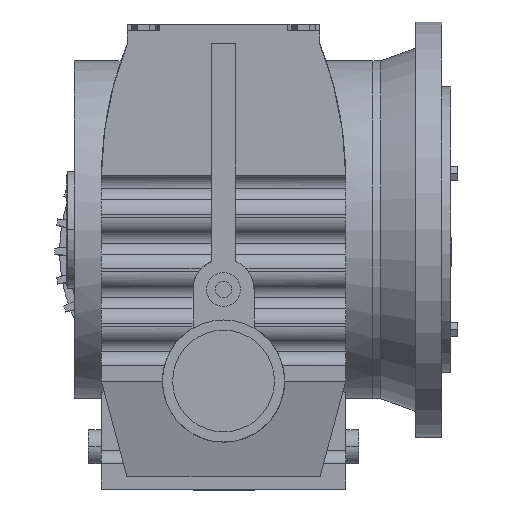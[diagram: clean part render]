
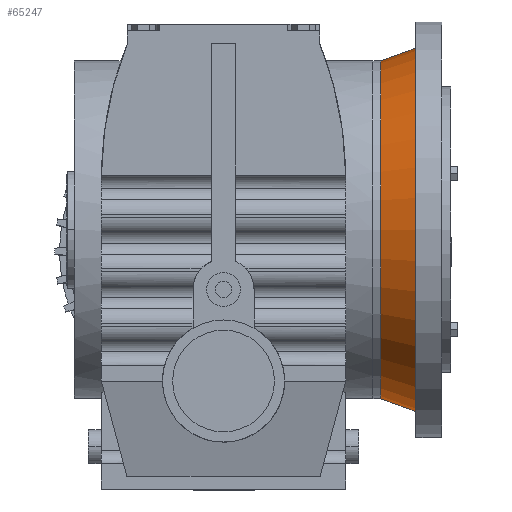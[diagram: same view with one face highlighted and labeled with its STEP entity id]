
A CAD part, top view. The second image highlights one B-rep face of the part: STEP entity #65247.
In plain terms, the highlighted conical face has half-angle 20 degrees and reference radius 69.914 mm.
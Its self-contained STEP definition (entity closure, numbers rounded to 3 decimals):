
#64800 = PLANE('',#64801);
#64801 = AXIS2_PLACEMENT_3D('',#64802,#64803,#64804);
#64802 = CARTESIAN_POINT('',(74.,69.914,0.));
#64803 = DIRECTION('',(1.,0.,0.));
#64804 = DIRECTION('',(0.,1.,0.));
#65010 = VERTEX_POINT('',#65011);
#65011 = CARTESIAN_POINT('',(74.,69.914,0.));
#65012 = VERTEX_POINT('',#65013);
#65013 = CARTESIAN_POINT('',(74.,-69.914,0.));
#65032 = CONICAL_SURFACE('',#65033,69.914,0.349);
#65033 = AXIS2_PLACEMENT_3D('',#65034,#65035,#65036);
#65034 = CARTESIAN_POINT('',(74.,0.,0.));
#65035 = DIRECTION('',(1.,0.,0.));
#65036 = DIRECTION('',(0.,1.,0.));
#65066 = EDGE_CURVE('',#65012,#65010,#65067,.T.);
#65067 = SURFACE_CURVE('',#65068,(#65073,#65084),.PCURVE_S1.);
#65068 = CIRCLE('',#65069,69.914);
#65069 = AXIS2_PLACEMENT_3D('',#65070,#65071,#65072);
#65070 = CARTESIAN_POINT('',(74.,0.,0.));
#65071 = DIRECTION('',(-1.,0.,0.));
#65072 = DIRECTION('',(0.,-1.,0.));
#65073 = PCURVE('',#64800,#65074);
#65074 = DEFINITIONAL_REPRESENTATION('',(#65075),#65083);
#65075 = ( BOUNDED_CURVE() B_SPLINE_CURVE(2,(#65076,#65077,#65078,#65079
    ,#65080,#65081,#65082),.UNSPECIFIED.,.F.,.F.) 
B_SPLINE_CURVE_WITH_KNOTS((1,2,2,2,2,1),(-2.094,0.,
    2.094,4.189,6.283,8.378),
.UNSPECIFIED.) CURVE() GEOMETRIC_REPRESENTATION_ITEM() 
RATIONAL_B_SPLINE_CURVE((1.,0.5,1.,0.5,1.,0.5,1.)) REPRESENTATION_ITEM(
  '') );
#65076 = CARTESIAN_POINT('',(-139.827,0.));
#65077 = CARTESIAN_POINT('',(-139.827,121.094));
#65078 = CARTESIAN_POINT('',(-34.957,60.547));
#65079 = CARTESIAN_POINT('',(69.914,0.));
#65080 = CARTESIAN_POINT('',(-34.957,-60.547));
#65081 = CARTESIAN_POINT('',(-139.827,-121.094));
#65082 = CARTESIAN_POINT('',(-139.827,0.));
#65083 = ( GEOMETRIC_REPRESENTATION_CONTEXT(2) 
PARAMETRIC_REPRESENTATION_CONTEXT() REPRESENTATION_CONTEXT('2D SPACE',''
  ) );
#65084 = PCURVE('',#65085,#65090);
#65085 = CONICAL_SURFACE('',#65086,69.914,0.349);
#65086 = AXIS2_PLACEMENT_3D('',#65087,#65088,#65089);
#65087 = CARTESIAN_POINT('',(74.,0.,0.));
#65088 = DIRECTION('',(1.,0.,0.));
#65089 = DIRECTION('',(0.,1.,0.));
#65090 = DEFINITIONAL_REPRESENTATION('',(#65091),#65094);
#65091 = B_SPLINE_CURVE_WITH_KNOTS('',1,(#65092,#65093),.UNSPECIFIED.,
  .F.,.F.,(2,2),(0.,3.142),.PIECEWISE_BEZIER_KNOTS.);
#65092 = CARTESIAN_POINT('',(3.142,0.));
#65093 = CARTESIAN_POINT('',(0.,0.));
#65094 = ( GEOMETRIC_REPRESENTATION_CONTEXT(2) 
PARAMETRIC_REPRESENTATION_CONTEXT() REPRESENTATION_CONTEXT('2D SPACE',''
  ) );
#65247 = ADVANCED_FACE('',(#65248),#65085,.T.);
#65248 = FACE_BOUND('',#65249,.T.);
#65249 = EDGE_LOOP('',(#65250,#65279,#65298,#65299));
#65250 = ORIENTED_EDGE('',*,*,#65251,.F.);
#65251 = EDGE_CURVE('',#65252,#65254,#65256,.T.);
#65252 = VERTEX_POINT('',#65253);
#65253 = CARTESIAN_POINT('',(60.5,-65.,0.));
#65254 = VERTEX_POINT('',#65255);
#65255 = CARTESIAN_POINT('',(60.5,65.,0.));
#65256 = SURFACE_CURVE('',#65257,(#65262,#65268),.PCURVE_S1.);
#65257 = CIRCLE('',#65258,65.);
#65258 = AXIS2_PLACEMENT_3D('',#65259,#65260,#65261);
#65259 = CARTESIAN_POINT('',(60.5,0.,0.));
#65260 = DIRECTION('',(-1.,0.,0.));
#65261 = DIRECTION('',(0.,-1.,0.));
#65262 = PCURVE('',#65085,#65263);
#65263 = DEFINITIONAL_REPRESENTATION('',(#65264),#65267);
#65264 = B_SPLINE_CURVE_WITH_KNOTS('',1,(#65265,#65266),.UNSPECIFIED.,
  .F.,.F.,(2,2),(0.,3.142),.PIECEWISE_BEZIER_KNOTS.);
#65265 = CARTESIAN_POINT('',(3.142,-13.5));
#65266 = CARTESIAN_POINT('',(0.,-13.5));
#65267 = ( GEOMETRIC_REPRESENTATION_CONTEXT(2) 
PARAMETRIC_REPRESENTATION_CONTEXT() REPRESENTATION_CONTEXT('2D SPACE',''
  ) );
#65268 = PCURVE('',#65269,#65274);
#65269 = CYLINDRICAL_SURFACE('',#65270,65.);
#65270 = AXIS2_PLACEMENT_3D('',#65271,#65272,#65273);
#65271 = CARTESIAN_POINT('',(0.,0.,0.));
#65272 = DIRECTION('',(-1.,0.,0.));
#65273 = DIRECTION('',(0.,-1.,0.));
#65274 = DEFINITIONAL_REPRESENTATION('',(#65275),#65278);
#65275 = B_SPLINE_CURVE_WITH_KNOTS('',1,(#65276,#65277),.UNSPECIFIED.,
  .F.,.F.,(2,2),(0.,3.142),.PIECEWISE_BEZIER_KNOTS.);
#65276 = CARTESIAN_POINT('',(0.,-60.5));
#65277 = CARTESIAN_POINT('',(3.142,-60.5));
#65278 = ( GEOMETRIC_REPRESENTATION_CONTEXT(2) 
PARAMETRIC_REPRESENTATION_CONTEXT() REPRESENTATION_CONTEXT('2D SPACE',''
  ) );
#65279 = ORIENTED_EDGE('',*,*,#65280,.T.);
#65280 = EDGE_CURVE('',#65252,#65012,#65281,.T.);
#65281 = SURFACE_CURVE('',#65282,(#65286,#65292),.PCURVE_S1.);
#65282 = LINE('',#65283,#65284);
#65283 = CARTESIAN_POINT('',(74.,-69.914,0.));
#65284 = VECTOR('',#65285,1.);
#65285 = DIRECTION('',(0.94,-0.342,
    0.));
#65286 = PCURVE('',#65085,#65287);
#65287 = DEFINITIONAL_REPRESENTATION('',(#65288),#65291);
#65288 = B_SPLINE_CURVE_WITH_KNOTS('',1,(#65289,#65290),.UNSPECIFIED.,
  .F.,.F.,(2,2),(-14.366,0.),.PIECEWISE_BEZIER_KNOTS.);
#65289 = CARTESIAN_POINT('',(3.142,-13.5));
#65290 = CARTESIAN_POINT('',(3.142,0.));
#65291 = ( GEOMETRIC_REPRESENTATION_CONTEXT(2) 
PARAMETRIC_REPRESENTATION_CONTEXT() REPRESENTATION_CONTEXT('2D SPACE',''
  ) );
#65292 = PCURVE('',#65032,#65293);
#65293 = DEFINITIONAL_REPRESENTATION('',(#65294),#65297);
#65294 = B_SPLINE_CURVE_WITH_KNOTS('',1,(#65295,#65296),.UNSPECIFIED.,
  .F.,.F.,(2,2),(-14.366,0.),.PIECEWISE_BEZIER_KNOTS.);
#65295 = CARTESIAN_POINT('',(3.142,-13.5));
#65296 = CARTESIAN_POINT('',(3.142,0.));
#65297 = ( GEOMETRIC_REPRESENTATION_CONTEXT(2) 
PARAMETRIC_REPRESENTATION_CONTEXT() REPRESENTATION_CONTEXT('2D SPACE',''
  ) );
#65298 = ORIENTED_EDGE('',*,*,#65066,.T.);
#65299 = ORIENTED_EDGE('',*,*,#65300,.F.);
#65300 = EDGE_CURVE('',#65254,#65010,#65301,.T.);
#65301 = SURFACE_CURVE('',#65302,(#65306,#65312),.PCURVE_S1.);
#65302 = LINE('',#65303,#65304);
#65303 = CARTESIAN_POINT('',(74.,69.914,0.));
#65304 = VECTOR('',#65305,1.);
#65305 = DIRECTION('',(0.94,0.342,0.));
#65306 = PCURVE('',#65085,#65307);
#65307 = DEFINITIONAL_REPRESENTATION('',(#65308),#65311);
#65308 = B_SPLINE_CURVE_WITH_KNOTS('',1,(#65309,#65310),.UNSPECIFIED.,
  .F.,.F.,(2,2),(-14.366,0.),.PIECEWISE_BEZIER_KNOTS.);
#65309 = CARTESIAN_POINT('',(0.,-13.5));
#65310 = CARTESIAN_POINT('',(0.,0.));
#65311 = ( GEOMETRIC_REPRESENTATION_CONTEXT(2) 
PARAMETRIC_REPRESENTATION_CONTEXT() REPRESENTATION_CONTEXT('2D SPACE',''
  ) );
#65312 = PCURVE('',#65032,#65313);
#65313 = DEFINITIONAL_REPRESENTATION('',(#65314),#65317);
#65314 = B_SPLINE_CURVE_WITH_KNOTS('',1,(#65315,#65316),.UNSPECIFIED.,
  .F.,.F.,(2,2),(-14.366,0.),.PIECEWISE_BEZIER_KNOTS.);
#65315 = CARTESIAN_POINT('',(6.283,-13.5));
#65316 = CARTESIAN_POINT('',(6.283,0.));
#65317 = ( GEOMETRIC_REPRESENTATION_CONTEXT(2) 
PARAMETRIC_REPRESENTATION_CONTEXT() REPRESENTATION_CONTEXT('2D SPACE',''
  ) );
